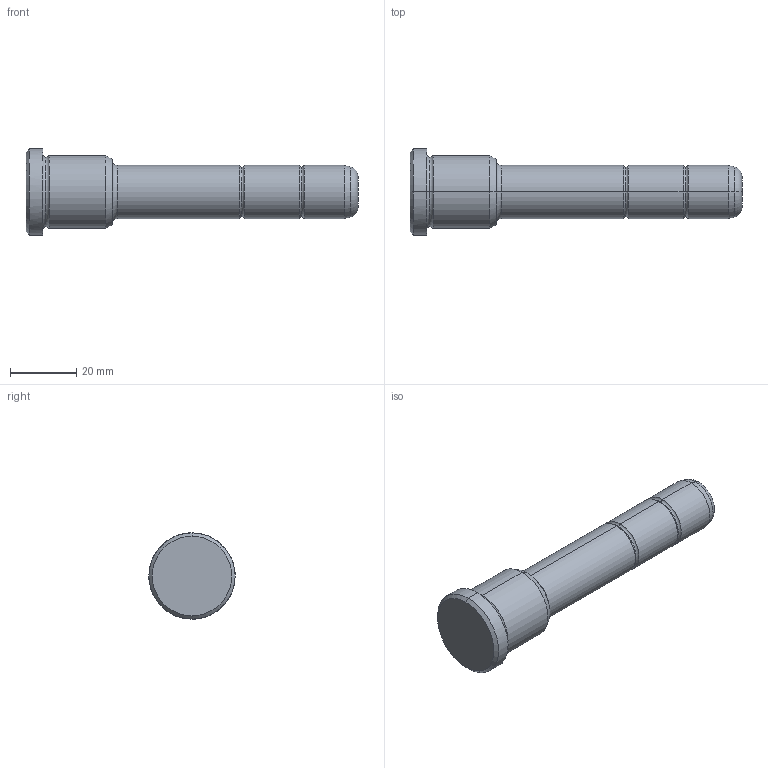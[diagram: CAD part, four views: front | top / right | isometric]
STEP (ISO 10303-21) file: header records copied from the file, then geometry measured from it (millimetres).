
FILE_DESCRIPTION(('CATIA V5 STEP Exchange'),'2;1');
FILE_NAME('C:\Users\Utente\Desktop\IO LAVORO\3D X SITO CF\X SITO\PLASTICA\351\351-16X26X100.stp','2021-08-18T10:51:05+00:00',('none'),('none'),'CATIA Version 5 Release 20 GA (IN-10)','CATIA V5 STEP AP203','none');
FILE_SCHEMA(('CONFIG_CONTROL_DESIGN'));
Length unit declared in the file: millimetre
Products named in the file (1): 351-16X26X100
Bounding box: 100 x 26 x 26 mm (x, y, z)
Volume: 25176.6 mm3; surface area: 6462.7 mm2
Topology: 1 solids, 1 shells, 36 faces, 102 edges, 70 vertices
Faces by surface type: torus 16, cylinder 10, cone 6, plane 4
Entity records: 1292 total; most frequent: CARTESIAN_POINT 321, ORIENTED_EDGE 204, DIRECTION 166, AXIS2_PLACEMENT_3D 115, EDGE_CURVE 102, CIRCLE 78, VERTEX_POINT 70, EDGE_LOOP 38
